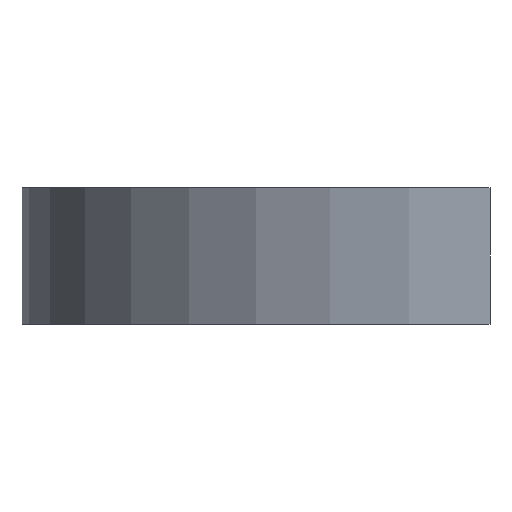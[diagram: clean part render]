
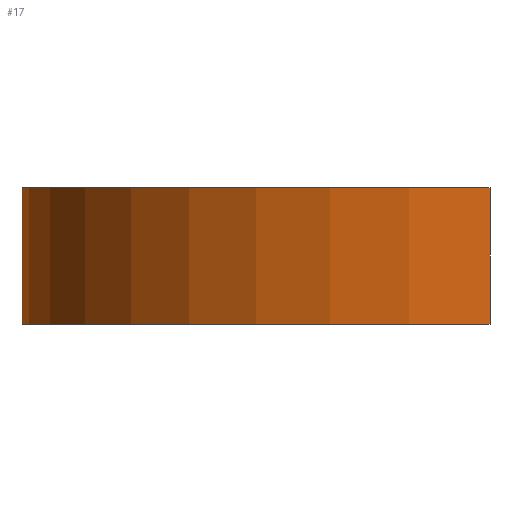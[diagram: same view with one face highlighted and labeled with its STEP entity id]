
A CAD part, left-side view. The second image highlights one B-rep face of the part: STEP entity #17.
In plain terms, the highlighted cylindrical face has radius 137 mm (diameter 274 mm), a partial arc.
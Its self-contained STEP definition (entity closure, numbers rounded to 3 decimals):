
#17 = ADVANCED_FACE('',(#18),#32,.T.);
#18 = FACE_BOUND('',#19,.T.);
#19 = EDGE_LOOP('',(#20,#55,#88,#116));
#20 = ORIENTED_EDGE('',*,*,#21,.T.);
#21 = EDGE_CURVE('',#22,#24,#26,.T.);
#22 = VERTEX_POINT('',#23);
#23 = CARTESIAN_POINT('',(-137.,0.,0.));
#24 = VERTEX_POINT('',#25);
#25 = CARTESIAN_POINT('',(-137.,0.,40.));
#26 = SURFACE_CURVE('',#27,(#31,#43),.PCURVE_S1.);
#27 = LINE('',#28,#29);
#28 = CARTESIAN_POINT('',(-137.,0.,0.));
#29 = VECTOR('',#30,1.);
#30 = DIRECTION('',(-0.,-0.,1.));
#31 = PCURVE('',#32,#37);
#32 = CYLINDRICAL_SURFACE('',#33,137.);
#33 = AXIS2_PLACEMENT_3D('',#34,#35,#36);
#34 = CARTESIAN_POINT('',(0.,0.,0.));
#35 = DIRECTION('',(0.,-0.,-1.));
#36 = DIRECTION('',(-1.,-0.,-0.));
#37 = DEFINITIONAL_REPRESENTATION('',(#38),#42);
#38 = LINE('',#39,#40);
#39 = CARTESIAN_POINT('',(0.,0.));
#40 = VECTOR('',#41,1.);
#41 = DIRECTION('',(0.,-1.));
#42 = ( GEOMETRIC_REPRESENTATION_CONTEXT(2) 
PARAMETRIC_REPRESENTATION_CONTEXT() REPRESENTATION_CONTEXT('2D SPACE',''
  ) );
#43 = PCURVE('',#44,#49);
#44 = PLANE('',#45);
#45 = AXIS2_PLACEMENT_3D('',#46,#47,#48);
#46 = CARTESIAN_POINT('',(-134.,0.,0.));
#47 = DIRECTION('',(-0.,1.,-0.));
#48 = DIRECTION('',(1.,0.,0.));
#49 = DEFINITIONAL_REPRESENTATION('',(#50),#54);
#50 = LINE('',#51,#52);
#51 = CARTESIAN_POINT('',(-3.,0.));
#52 = VECTOR('',#53,1.);
#53 = DIRECTION('',(-0.,-1.));
#54 = ( GEOMETRIC_REPRESENTATION_CONTEXT(2) 
PARAMETRIC_REPRESENTATION_CONTEXT() REPRESENTATION_CONTEXT('2D SPACE',''
  ) );
#55 = ORIENTED_EDGE('',*,*,#56,.T.);
#56 = EDGE_CURVE('',#24,#57,#59,.T.);
#57 = VERTEX_POINT('',#58);
#58 = CARTESIAN_POINT('',(134.919,23.79,40.));
#59 = SURFACE_CURVE('',#60,(#65,#72),.PCURVE_S1.);
#60 = CIRCLE('',#61,137.);
#61 = AXIS2_PLACEMENT_3D('',#62,#63,#64);
#62 = CARTESIAN_POINT('',(0.,0.,40.));
#63 = DIRECTION('',(0.,0.,-1.));
#64 = DIRECTION('',(-1.,-0.,-0.));
#65 = PCURVE('',#32,#66);
#66 = DEFINITIONAL_REPRESENTATION('',(#67),#71);
#67 = LINE('',#68,#69);
#68 = CARTESIAN_POINT('',(0.,-40.));
#69 = VECTOR('',#70,1.);
#70 = DIRECTION('',(1.,0.));
#71 = ( GEOMETRIC_REPRESENTATION_CONTEXT(2) 
PARAMETRIC_REPRESENTATION_CONTEXT() REPRESENTATION_CONTEXT('2D SPACE',''
  ) );
#72 = PCURVE('',#73,#78);
#73 = PLANE('',#74);
#74 = AXIS2_PLACEMENT_3D('',#75,#76,#77);
#75 = CARTESIAN_POINT('',(-7.226,82.59,40.));
#76 = DIRECTION('',(-0.,-0.,1.));
#77 = DIRECTION('',(1.,0.,0.));
#78 = DEFINITIONAL_REPRESENTATION('',(#79),#87);
#79 = ( BOUNDED_CURVE() B_SPLINE_CURVE(2,(#80,#81,#82,#83,#84,#85,#86),
.UNSPECIFIED.,.T.,.F.) B_SPLINE_CURVE_WITH_KNOTS((1,2,2,2,2,1),(
    -2.094,0.,2.094,4.189,6.283,
8.378),.UNSPECIFIED.) CURVE() GEOMETRIC_REPRESENTATION_ITEM() 
RATIONAL_B_SPLINE_CURVE((1.,0.5,1.,0.5,1.,0.5,1.)) REPRESENTATION_ITEM(
  '') );
#80 = CARTESIAN_POINT('',(-129.774,-82.59));
#81 = CARTESIAN_POINT('',(-129.774,154.701));
#82 = CARTESIAN_POINT('',(75.726,36.055));
#83 = CARTESIAN_POINT('',(281.226,-82.59));
#84 = CARTESIAN_POINT('',(75.726,-201.236));
#85 = CARTESIAN_POINT('',(-129.774,-319.881));
#86 = CARTESIAN_POINT('',(-129.774,-82.59));
#87 = ( GEOMETRIC_REPRESENTATION_CONTEXT(2) 
PARAMETRIC_REPRESENTATION_CONTEXT() REPRESENTATION_CONTEXT('2D SPACE',''
  ) );
#88 = ORIENTED_EDGE('',*,*,#89,.F.);
#89 = EDGE_CURVE('',#90,#57,#92,.T.);
#90 = VERTEX_POINT('',#91);
#91 = CARTESIAN_POINT('',(134.919,23.79,0.));
#92 = SURFACE_CURVE('',#93,(#97,#104),.PCURVE_S1.);
#93 = LINE('',#94,#95);
#94 = CARTESIAN_POINT('',(134.919,23.79,0.));
#95 = VECTOR('',#96,1.);
#96 = DIRECTION('',(-0.,-0.,1.));
#97 = PCURVE('',#32,#98);
#98 = DEFINITIONAL_REPRESENTATION('',(#99),#103);
#99 = LINE('',#100,#101);
#100 = CARTESIAN_POINT('',(2.967,0.));
#101 = VECTOR('',#102,1.);
#102 = DIRECTION('',(0.,-1.));
#103 = ( GEOMETRIC_REPRESENTATION_CONTEXT(2) 
PARAMETRIC_REPRESENTATION_CONTEXT() REPRESENTATION_CONTEXT('2D SPACE',''
  ) );
#104 = PCURVE('',#105,#110);
#105 = PLANE('',#106);
#106 = AXIS2_PLACEMENT_3D('',#107,#108,#109);
#107 = CARTESIAN_POINT('',(134.919,23.79,0.));
#108 = DIRECTION('',(-0.174,0.985,-0.));
#109 = DIRECTION('',(0.985,0.174,0.));
#110 = DEFINITIONAL_REPRESENTATION('',(#111),#115);
#111 = LINE('',#112,#113);
#112 = CARTESIAN_POINT('',(-0.,-0.));
#113 = VECTOR('',#114,1.);
#114 = DIRECTION('',(-0.,-1.));
#115 = ( GEOMETRIC_REPRESENTATION_CONTEXT(2) 
PARAMETRIC_REPRESENTATION_CONTEXT() REPRESENTATION_CONTEXT('2D SPACE',''
  ) );
#116 = ORIENTED_EDGE('',*,*,#117,.F.);
#117 = EDGE_CURVE('',#22,#90,#118,.T.);
#118 = SURFACE_CURVE('',#119,(#124,#131),.PCURVE_S1.);
#119 = CIRCLE('',#120,137.);
#120 = AXIS2_PLACEMENT_3D('',#121,#122,#123);
#121 = CARTESIAN_POINT('',(0.,0.,0.));
#122 = DIRECTION('',(0.,0.,-1.));
#123 = DIRECTION('',(-1.,-0.,-0.));
#124 = PCURVE('',#32,#125);
#125 = DEFINITIONAL_REPRESENTATION('',(#126),#130);
#126 = LINE('',#127,#128);
#127 = CARTESIAN_POINT('',(0.,0.));
#128 = VECTOR('',#129,1.);
#129 = DIRECTION('',(1.,0.));
#130 = ( GEOMETRIC_REPRESENTATION_CONTEXT(2) 
PARAMETRIC_REPRESENTATION_CONTEXT() REPRESENTATION_CONTEXT('2D SPACE',''
  ) );
#131 = PCURVE('',#132,#137);
#132 = PLANE('',#133);
#133 = AXIS2_PLACEMENT_3D('',#134,#135,#136);
#134 = CARTESIAN_POINT('',(-7.226,82.59,0.));
#135 = DIRECTION('',(-0.,-0.,1.));
#136 = DIRECTION('',(1.,0.,0.));
#137 = DEFINITIONAL_REPRESENTATION('',(#138),#146);
#138 = ( BOUNDED_CURVE() B_SPLINE_CURVE(2,(#139,#140,#141,#142,#143,#144
,#145),.UNSPECIFIED.,.T.,.F.) B_SPLINE_CURVE_WITH_KNOTS((1,2,2,2,2,1),(
    -2.094,0.,2.094,4.189,6.283,
8.378),.UNSPECIFIED.) CURVE() GEOMETRIC_REPRESENTATION_ITEM() 
RATIONAL_B_SPLINE_CURVE((1.,0.5,1.,0.5,1.,0.5,1.)) REPRESENTATION_ITEM(
  '') );
#139 = CARTESIAN_POINT('',(-129.774,-82.59));
#140 = CARTESIAN_POINT('',(-129.774,154.701));
#141 = CARTESIAN_POINT('',(75.726,36.055));
#142 = CARTESIAN_POINT('',(281.226,-82.59));
#143 = CARTESIAN_POINT('',(75.726,-201.236));
#144 = CARTESIAN_POINT('',(-129.774,-319.881));
#145 = CARTESIAN_POINT('',(-129.774,-82.59));
#146 = ( GEOMETRIC_REPRESENTATION_CONTEXT(2) 
PARAMETRIC_REPRESENTATION_CONTEXT() REPRESENTATION_CONTEXT('2D SPACE',''
  ) );
